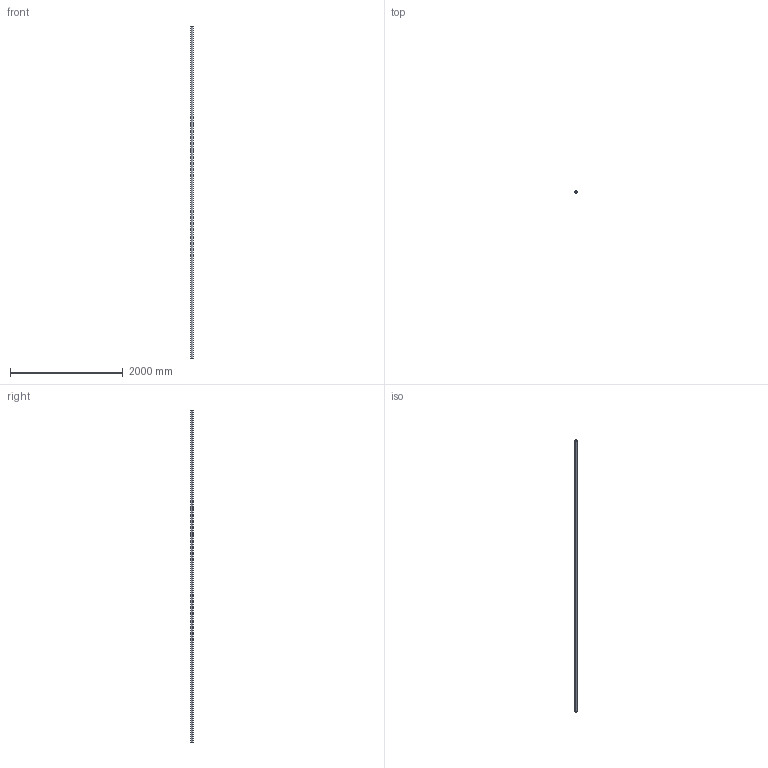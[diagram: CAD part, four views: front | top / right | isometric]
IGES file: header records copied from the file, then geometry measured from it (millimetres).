
Start section: SolidWorks IGES file using analytic representation for surfaces
Global section: file name: C:\Users\IanO\Desktop\L1771_v2\L1771.40_v2\L1771.40_v2_20230705_IGES\L1771.40-5900.igs; native system: SolidWorks 2019; preprocessor: SolidWorks 2019; author: IanO; date: 230705.163430; units: millimetre
Bounding box: 40 x 40 x 5900 mm (x, y, z)
Surface area: 1261688.7 mm2 (no closed solid volume)
Topology: 0 solids, 0 shells, 6 faces, 272 edges, 272 vertices
Faces by surface type: revolution 4, bspline 2
